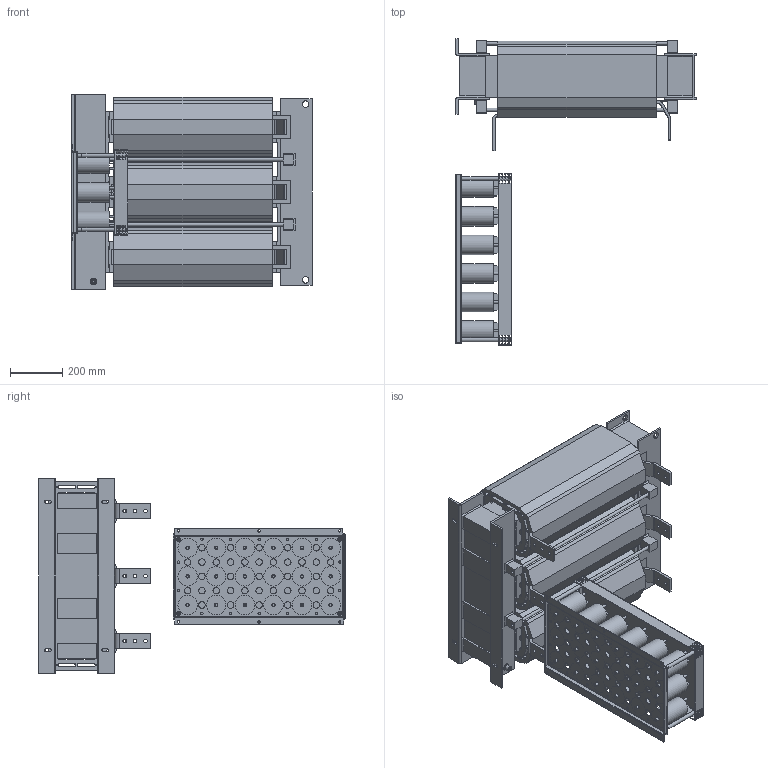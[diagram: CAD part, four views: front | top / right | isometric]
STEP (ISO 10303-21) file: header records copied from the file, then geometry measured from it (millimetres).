
FILE_DESCRIPTION(/* description */ ('raw material description'),/* implementation_level */ '2;1');
FILE_NAME(/* name */ 'C:\Users\Oliver.Volic\Desktop\FN5040-1200-99..stp',/* time_stamp */ '2019-01-09T14:39:16+01:00',/* author */ ('Oliver.Volic'),/* organization */ ('Schaffner EMV AG'),/* preprocessor_version */ 'ST-DEVELOPER v16.5',/* originating_system */ 'Autodesk Inventor 2017',/* authorisation */ '');
FILE_SCHEMA (('AUTOMOTIVE_DESIGN { 1 0 10303 214 3 1 1 }'));
Products named in the file (1): FN5040-1200-99.
Bounding box: 923 x 1177.9 x 748 mm (x, y, z)
Volume: 127177086.8 mm3; surface area: 12077704.3 mm2
Topology: 5 solids, 41 shells, 2328 faces, 6476 edges, 4255 vertices
Faces by surface type: plane 1623, cylinder 624, cone 81
Full cylindrical faces by diameter (mm): 6.647 x8, 9 x24, 10 x41, 12 x22, 13 x22, 13.5 x15, 14 x8, 15 x4, 20 x1, 25 x41, 75 x18
Entity records: 76041 total; most frequent: CARTESIAN_POINT 12739, ORIENTED_EDGE 12346, DIRECTION 12194, EDGE_CURVE 6173, LINE 4810, VECTOR 4810, VERTEX_POINT 4237, AXIS2_PLACEMENT_3D 3692
